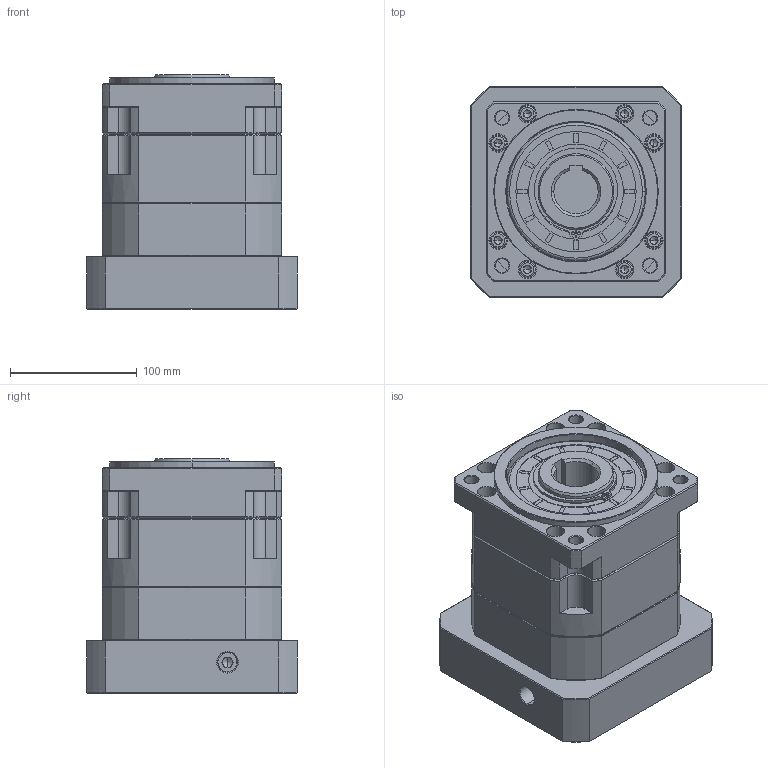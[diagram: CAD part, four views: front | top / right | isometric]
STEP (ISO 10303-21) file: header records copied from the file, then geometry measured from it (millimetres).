
FILE_DESCRIPTION (( 'STEP AP214' ), '1' );
FILE_NAME ('ZB142A-K35-L1-28-130-165-M10.step', '2023-03-17T10:48:40', ( '' ), ( '' ), 'SwSTEP 2.0', 'SolidWorks 2016', '' );
FILE_SCHEMA (( 'AUTOMOTIVE_DESIGN' ));
Length unit declared in the file: millimetre
Products named in the file (1): ZB142A-K35-L1-28-130-165-M10
Bounding box: 166 x 166 x 185.2 mm (x, y, z)
Volume: 3283457.6 mm3; surface area: 291324.7 mm2
Topology: 6 solids, 6 shells, 1981 faces, 5240 edges, 3360 vertices
Faces by surface type: plane 915, cylinder 395, cone 345, bspline 306, torus 20
Entity records: 106857 total; most frequent: CARTESIAN_POINT 38347, ORIENTED_EDGE 10424, DIRECTION 8611, EDGE_CURVE 5212, VERTEX_POINT 3360, VECTOR 3221, LINE 3221, AXIS2_PLACEMENT_3D 2695
